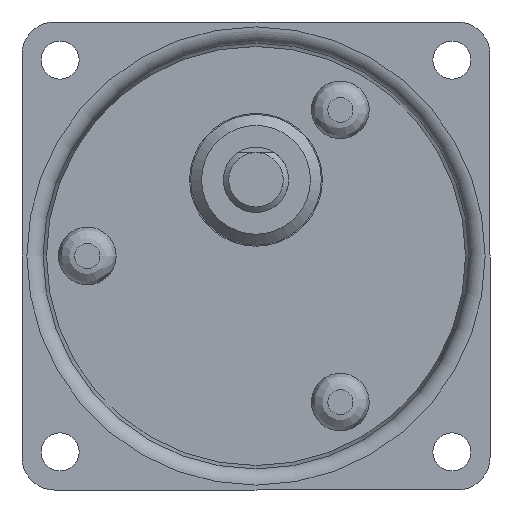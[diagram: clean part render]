
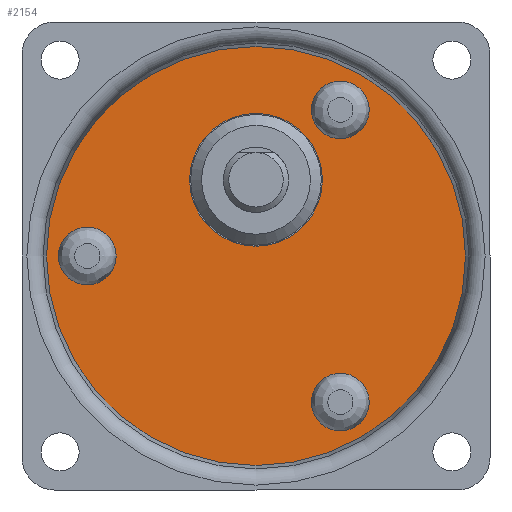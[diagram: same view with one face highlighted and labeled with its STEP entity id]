
A CAD part, front view. The second image highlights one B-rep face of the part: STEP entity #2154.
In plain terms, the highlighted planar face has unit normal (0, -1, 0).
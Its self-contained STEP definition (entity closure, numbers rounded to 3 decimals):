
#1641=CARTESIAN_POINT('',(6.425,3.5,-11.128));
#1642=VERTEX_POINT('',#1641);
#1643=CARTESIAN_POINT('',(7.75,3.5,-13.423));
#1644=DIRECTION('',(0.0,1.0,0.0));
#1645=DIRECTION('',(0.5,0.0,-0.866));
#1646=AXIS2_PLACEMENT_3D('',#1643,#1644,#1645);
#1647=CIRCLE('',#1646,2.65);
#1648=EDGE_CURVE('',#1642,#1642,#1647,.T.);
#1746=CARTESIAN_POINT('',(6.425,3.5,11.128));
#1747=VERTEX_POINT('',#1746);
#1748=CARTESIAN_POINT('',(7.75,3.5,13.423));
#1749=DIRECTION('',(0.0,1.,0.0));
#1750=DIRECTION('',(0.5,0.0,0.866));
#1751=AXIS2_PLACEMENT_3D('',#1748,#1749,#1750);
#1752=CIRCLE('',#1751,2.65);
#1753=EDGE_CURVE('',#1747,#1747,#1752,.T.);
#1851=CARTESIAN_POINT('',(-12.85,3.5,0.));
#1852=VERTEX_POINT('',#1851);
#1853=CARTESIAN_POINT('',(-15.5,3.5,0.0));
#1854=DIRECTION('',(0.0,1.0,0.0));
#1855=DIRECTION('',(-1.0,0.0,0.0));
#1856=AXIS2_PLACEMENT_3D('',#1853,#1854,#1855);
#1857=CIRCLE('',#1856,2.65);
#1858=EDGE_CURVE('',#1852,#1852,#1857,.T.);
#1891=CARTESIAN_POINT('',(6.1,3.5,7.));
#1892=VERTEX_POINT('',#1891);
#1893=CARTESIAN_POINT('',(0.0,3.5,7.));
#1894=DIRECTION('',(0.0,1.0,0.0));
#1895=DIRECTION('',(-1.0,0.0,0.0));
#1896=AXIS2_PLACEMENT_3D('',#1893,#1894,#1895);
#1897=CIRCLE('',#1896,6.1);
#1898=EDGE_CURVE('',#1892,#1892,#1897,.T.);
#1996=CARTESIAN_POINT('',(0.,3.5,-19.25));
#1997=VERTEX_POINT('',#1996);
#1998=CARTESIAN_POINT('',(0.0,3.5,0.0));
#1999=DIRECTION('',(0.0,-1.0,0.0));
#2000=DIRECTION('',(0.0,0.0,1.0));
#2001=AXIS2_PLACEMENT_3D('',#1998,#1999,#2000);
#2002=CIRCLE('',#2001,19.25);
#2003=EDGE_CURVE('',#1997,#1997,#2002,.F.);
#2134=CARTESIAN_POINT('',(0.0,3.5,10.059));
#2135=DIRECTION('',(0.0,1.0,0.0));
#2136=DIRECTION('',(0.0,0.0,1.0));
#2137=AXIS2_PLACEMENT_3D('',#2134,#2135,#2136);
#2138=PLANE('',#2137);
#2139=ORIENTED_EDGE('',*,*,#2003,.F.);
#2140=EDGE_LOOP('',(#2139));
#2141=FACE_OUTER_BOUND('',#2140,.T.);
#2142=ORIENTED_EDGE('',*,*,#1648,.T.);
#2143=EDGE_LOOP('',(#2142));
#2144=FACE_BOUND('',#2143,.T.);
#2145=ORIENTED_EDGE('',*,*,#1753,.T.);
#2146=EDGE_LOOP('',(#2145));
#2147=FACE_BOUND('',#2146,.T.);
#2148=ORIENTED_EDGE('',*,*,#1858,.T.);
#2149=EDGE_LOOP('',(#2148));
#2150=FACE_BOUND('',#2149,.T.);
#2151=ORIENTED_EDGE('',*,*,#1898,.T.);
#2152=EDGE_LOOP('',(#2151));
#2153=FACE_BOUND('',#2152,.T.);
#2154=ADVANCED_FACE('',(#2141,#2144,#2147,#2150,#2153),#2138,.F.);
